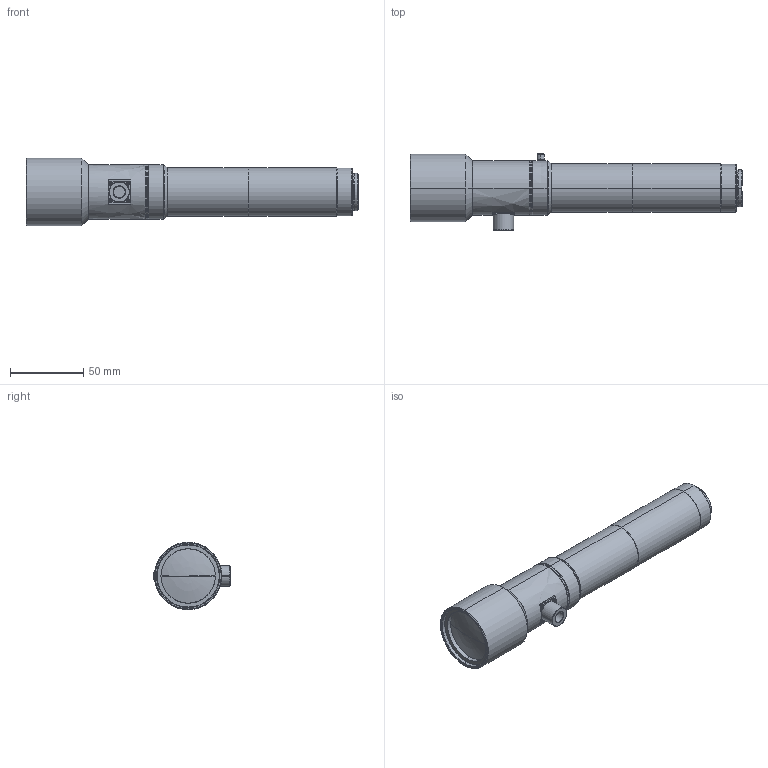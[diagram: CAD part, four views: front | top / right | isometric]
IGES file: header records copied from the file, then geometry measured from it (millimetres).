
Start section: SolidWorks IGES file using analytic representation for surfaces
Global section: file name: C:\Users\matsui_VST\Desktop\AutoCAD図面DATA\●・THV40-110 (2000207)   (3Dモデル) ▲\VS-THV4-110CO_S.IGS; native system: SolidWorks 2018; preprocessor: SolidWorks 2018; author: matsui_VST; date: 200901.164508; units: millimetre
Bounding box: 225.97 x 51.8 x 46 mm (x, y, z)
Surface area: 41688.8 mm2 (no closed solid volume)
Topology: 0 solids, 0 shells, 240 faces, 3501 edges, 3500 vertices
Faces by surface type: revolution 136, bspline 104
